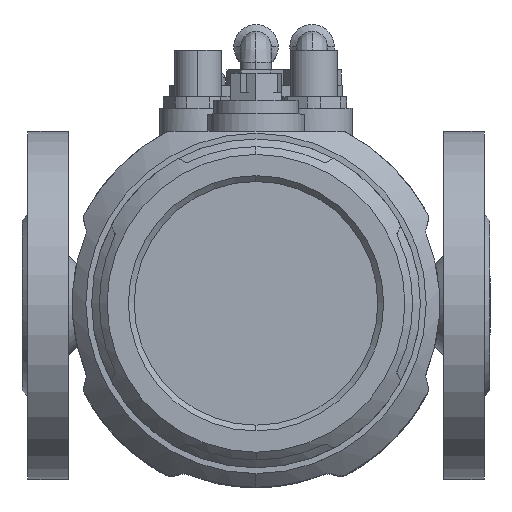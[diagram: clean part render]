
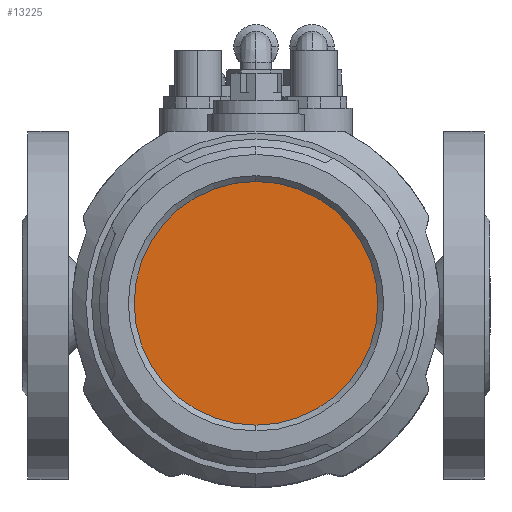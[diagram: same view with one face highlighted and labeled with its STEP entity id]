
A CAD part, top view. The second image highlights one B-rep face of the part: STEP entity #13225.
In plain terms, the highlighted planar face has unit normal (0, 0, 1) as drawn and (0, 1, 0) by its records, which use the part's own axes.
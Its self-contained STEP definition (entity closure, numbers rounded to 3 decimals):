
#8617=CARTESIAN_POINT('',(0.,20.,0.));
#8618=DIRECTION('',(0.,-1.,0.));
#8619=DIRECTION('',(-1.,0.,0.));
#8620=AXIS2_PLACEMENT_3D('',#8617,#8618,#8619);
#8622=CARTESIAN_POINT('',(0.,20.,0.));
#8623=DIRECTION('',(0.,-1.,0.));
#8624=DIRECTION('',(1.,0.,0.));
#8625=AXIS2_PLACEMENT_3D('',#8622,#8623,#8624);
#8643=CARTESIAN_POINT('',(-31.5,20.,0.));
#8644=CARTESIAN_POINT('',(31.5,20.,0.));
#8645=VERTEX_POINT('',#8643);
#8646=VERTEX_POINT('',#8644);
#13216=CARTESIAN_POINT('',(0.,20.,0.));
#13217=DIRECTION('',(0.,1.,0.));
#13218=DIRECTION('',(1.,0.,0.));
#13219=AXIS2_PLACEMENT_3D('',#13216,#13217,#13218);
#13220=PLANE('',#13219);
#13221=ORIENTED_EDGE('',*,*,#13196,.T.);
#13222=ORIENTED_EDGE('',*,*,#13210,.T.);
#13223=EDGE_LOOP('',(#13221,#13222));
#13224=FACE_OUTER_BOUND('',#13223,.F.);
#13225=ADVANCED_FACE('',(#13224),#13220,.T.);
#8621=CIRCLE('',#8620,31.5);
#8626=CIRCLE('',#8625,31.5);
#13196=EDGE_CURVE('',#8645,#8646,#8621,.T.);
#13210=EDGE_CURVE('',#8646,#8645,#8626,.T.);
